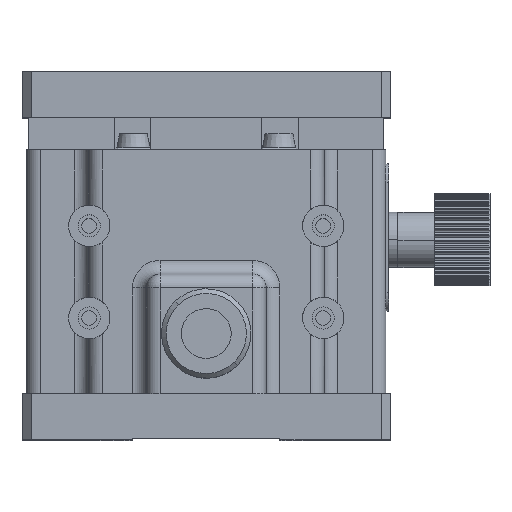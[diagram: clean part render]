
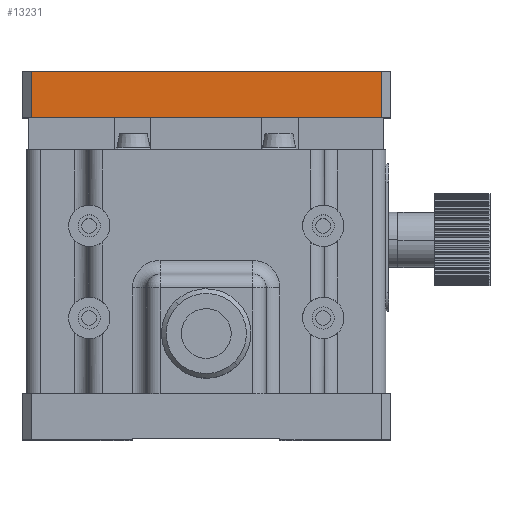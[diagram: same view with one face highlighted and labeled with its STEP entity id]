
A CAD part, top view. The second image highlights one B-rep face of the part: STEP entity #13231.
In plain terms, the highlighted planar face has unit normal (0, 0, 1).
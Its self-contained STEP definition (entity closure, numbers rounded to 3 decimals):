
#60 = DIRECTION ( 'NONE',  ( -1., 0., 0. ) ) ;
#174 = VERTEX_POINT ( 'NONE', #2429 ) ;
#1240 = CARTESIAN_POINT ( 'NONE',  ( -20., -2.5, 20. ) ) ;
#2249 = CARTESIAN_POINT ( 'NONE',  ( 19., 2.5, 20. ) ) ;
#2429 = CARTESIAN_POINT ( 'NONE',  ( 19., -2.5, 20. ) ) ;
#2646 = CARTESIAN_POINT ( 'NONE',  ( -19., 2.5, 20. ) ) ;
#4435 = PLANE ( 'NONE',  #12544 ) ;
#6055 = ORIENTED_EDGE ( 'NONE', *, *, #6299, .T. ) ;
#6299 = EDGE_CURVE ( 'NONE', #10327, #174, #28753, .T. ) ;
#6448 = CARTESIAN_POINT ( 'NONE',  ( -20., 2.5, 20. ) ) ;
#7058 = VERTEX_POINT ( 'NONE', #9187 ) ;
#7944 = ORIENTED_EDGE ( 'NONE', *, *, #15629, .T. ) ;
#9187 = CARTESIAN_POINT ( 'NONE',  ( 19., 2.5, 20. ) ) ;
#10276 = LINE ( 'NONE', #2646, #16941 ) ;
#10327 = VERTEX_POINT ( 'NONE', #22516 ) ;
#11555 = DIRECTION ( 'NONE',  ( 0., 1., 0. ) ) ;
#12544 = AXIS2_PLACEMENT_3D ( 'NONE', #6448, #13480, #60 ) ;
#12686 = VECTOR ( 'NONE', #11555, 1000. ) ;
#13231 = ADVANCED_FACE ( 'NONE', ( #15175 ), #4435, .F. ) ;
#13480 = DIRECTION ( 'NONE',  ( 0., 0., -1. ) ) ;
#13640 = DIRECTION ( 'NONE',  ( 0., -1., 0. ) ) ;
#14079 = VERTEX_POINT ( 'NONE', #27200 ) ;
#15175 = FACE_OUTER_BOUND ( 'NONE', #23900, .T. ) ;
#15629 = EDGE_CURVE ( 'NONE', #174, #7058, #19380, .T. ) ;
#16941 = VECTOR ( 'NONE', #13640, 1000. ) ;
#18537 = VECTOR ( 'NONE', #23333, 1000. ) ;
#19269 = CARTESIAN_POINT ( 'NONE',  ( -20., 2.5, 20. ) ) ;
#19380 = LINE ( 'NONE', #2249, #12686 ) ;
#20245 = ORIENTED_EDGE ( 'NONE', *, *, #23834, .F. ) ;
#21021 = ORIENTED_EDGE ( 'NONE', *, *, #22270, .T. ) ;
#22270 = EDGE_CURVE ( 'NONE', #14079, #10327, #10276, .T. ) ;
#22516 = CARTESIAN_POINT ( 'NONE',  ( -19., -2.5, 20. ) ) ;
#23333 = DIRECTION ( 'NONE',  ( 1., 0., 0. ) ) ;
#23834 = EDGE_CURVE ( 'NONE', #14079, #7058, #25868, .T. ) ;
#23900 = EDGE_LOOP ( 'NONE', ( #20245, #21021, #6055, #7944 ) ) ;
#25542 = VECTOR ( 'NONE', #28596, 1000. ) ;
#25868 = LINE ( 'NONE', #19269, #25542 ) ;
#27200 = CARTESIAN_POINT ( 'NONE',  ( -19., 2.5, 20. ) ) ;
#28596 = DIRECTION ( 'NONE',  ( 1., 0., 0. ) ) ;
#28753 = LINE ( 'NONE', #1240, #18537 ) ;
